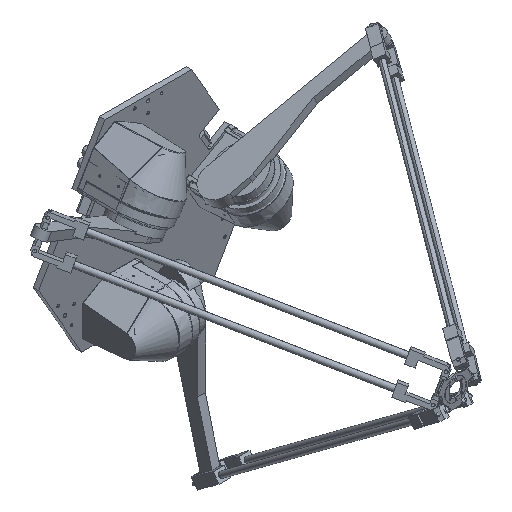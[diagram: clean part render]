
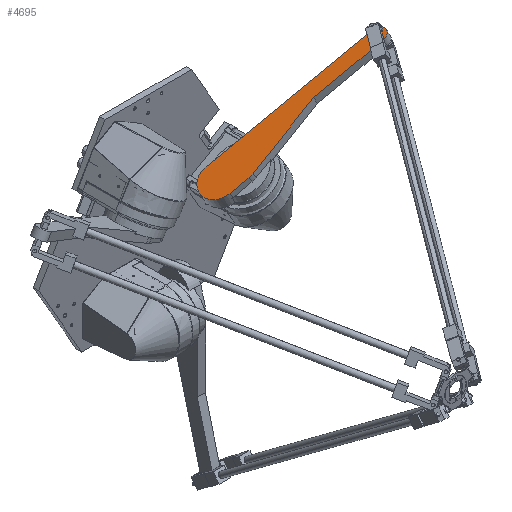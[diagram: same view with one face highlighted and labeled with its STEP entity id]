
A CAD part, isometric view. The second image highlights one B-rep face of the part: STEP entity #4695.
In plain terms, the highlighted planar face has unit normal (-0.5, 0, 0.866) as drawn and (0, 0, 1) by its records, which use the part's own axes.
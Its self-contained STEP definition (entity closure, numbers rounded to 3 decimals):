
#4193=DIRECTION('',(-1.,0.,0.));
#4194=VECTOR('',#4193,573.798);
#4195=CARTESIAN_POINT('',(508.798,60.,15.));
#4196=LINE('',#4195,#4194);
#4205=CARTESIAN_POINT('',(0.,0.,15.));
#4206=DIRECTION('',(0.,0.,1.));
#4207=DIRECTION('',(0.,-1.,0.));
#4208=AXIS2_PLACEMENT_3D('',#4205,#4206,#4207);
#4210=DIRECTION('',(1.,0.,0.));
#4211=VECTOR('',#4210,65.);
#4212=CARTESIAN_POINT('',(-65.,-60.,15.));
#4213=LINE('',#4212,#4211);
#4214=CARTESIAN_POINT('',(-65.,0.,15.));
#4215=DIRECTION('',(0.,0.,1.));
#4216=DIRECTION('',(0.,1.,0.));
#4217=AXIS2_PLACEMENT_3D('',#4214,#4215,#4216);
#4219=CARTESIAN_POINT('',(508.798,35.,15.));
#4220=DIRECTION('',(0.,0.,1.));
#4221=DIRECTION('',(0.,-1.,0.));
#4222=AXIS2_PLACEMENT_3D('',#4219,#4220,#4221);
#4224=DIRECTION('',(1.,0.,0.));
#4225=VECTOR('',#4224,239.655);
#4226=CARTESIAN_POINT('',(269.143,10.,15.));
#4227=LINE('',#4226,#4225);
#4228=DIRECTION('',(0.966,0.259,0.));
#4229=VECTOR('',#4228,262.56);
#4230=CARTESIAN_POINT('',(15.529,-57.956,15.));
#4231=LINE('',#4230,#4229);
#4232=CARTESIAN_POINT('',(508.798,35.,15.));
#4233=DIRECTION('',(0.,0.,1.));
#4234=DIRECTION('',(1.,0.,0.));
#4235=AXIS2_PLACEMENT_3D('',#4232,#4233,#4234);
#4237=CARTESIAN_POINT('',(508.798,35.,15.));
#4238=DIRECTION('',(0.,0.,1.));
#4239=DIRECTION('',(-1.,0.,0.));
#4240=AXIS2_PLACEMENT_3D('',#4237,#4238,#4239);
#4371=CARTESIAN_POINT('',(508.798,10.,15.));
#4372=CARTESIAN_POINT('',(508.798,60.,15.));
#4373=VERTEX_POINT('',#4371);
#4374=VERTEX_POINT('',#4372);
#4401=CARTESIAN_POINT('',(15.529,-57.956,15.));
#4402=CARTESIAN_POINT('',(269.143,10.,15.));
#4403=VERTEX_POINT('',#4401);
#4404=VERTEX_POINT('',#4402);
#4407=CARTESIAN_POINT('',(-65.,60.,15.));
#4408=CARTESIAN_POINT('',(-65.,-60.,15.));
#4409=VERTEX_POINT('',#4407);
#4410=VERTEX_POINT('',#4408);
#4416=CARTESIAN_POINT('',(0.,-60.,15.));
#4418=VERTEX_POINT('',#4416);
#4447=CARTESIAN_POINT('',(518.798,35.,15.));
#4448=CARTESIAN_POINT('',(498.798,35.,15.));
#4449=VERTEX_POINT('',#4447);
#4450=VERTEX_POINT('',#4448);
#4670=CARTESIAN_POINT('',(0.,0.,15.));
#4671=DIRECTION('',(0.,0.,1.));
#4672=DIRECTION('',(1.,0.,0.));
#4673=AXIS2_PLACEMENT_3D('',#4670,#4671,#4672);
#4674=PLANE('',#4673);
#4676=ORIENTED_EDGE('',*,*,#4675,.F.);
#4678=ORIENTED_EDGE('',*,*,#4677,.F.);
#4679=ORIENTED_EDGE('',*,*,#4637,.F.);
#4680=ORIENTED_EDGE('',*,*,#4659,.F.);
#4682=ORIENTED_EDGE('',*,*,#4681,.F.);
#4684=ORIENTED_EDGE('',*,*,#4683,.F.);
#4686=ORIENTED_EDGE('',*,*,#4685,.F.);
#4687=EDGE_LOOP('',(#4676,#4678,#4679,#4680,#4682,#4684,#4686));
#4688=FACE_OUTER_BOUND('',#4687,.F.);
#4690=ORIENTED_EDGE('',*,*,#4689,.T.);
#4692=ORIENTED_EDGE('',*,*,#4691,.T.);
#4693=EDGE_LOOP('',(#4690,#4692));
#4694=FACE_BOUND('',#4693,.F.);
#4695=ADVANCED_FACE('',(#4688,#4694),#4674,.T.);
#4209=CIRCLE('',#4208,60.);
#4218=CIRCLE('',#4217,60.);
#4223=CIRCLE('',#4222,25.);
#4236=CIRCLE('',#4235,10.);
#4241=CIRCLE('',#4240,10.);
#4637=EDGE_CURVE('',#4409,#4410,#4218,.T.);
#4659=EDGE_CURVE('',#4374,#4409,#4196,.T.);
#4675=EDGE_CURVE('',#4418,#4403,#4209,.T.);
#4677=EDGE_CURVE('',#4410,#4418,#4213,.T.);
#4681=EDGE_CURVE('',#4373,#4374,#4223,.T.);
#4683=EDGE_CURVE('',#4404,#4373,#4227,.T.);
#4685=EDGE_CURVE('',#4403,#4404,#4231,.T.);
#4689=EDGE_CURVE('',#4449,#4450,#4236,.T.);
#4691=EDGE_CURVE('',#4450,#4449,#4241,.T.);
